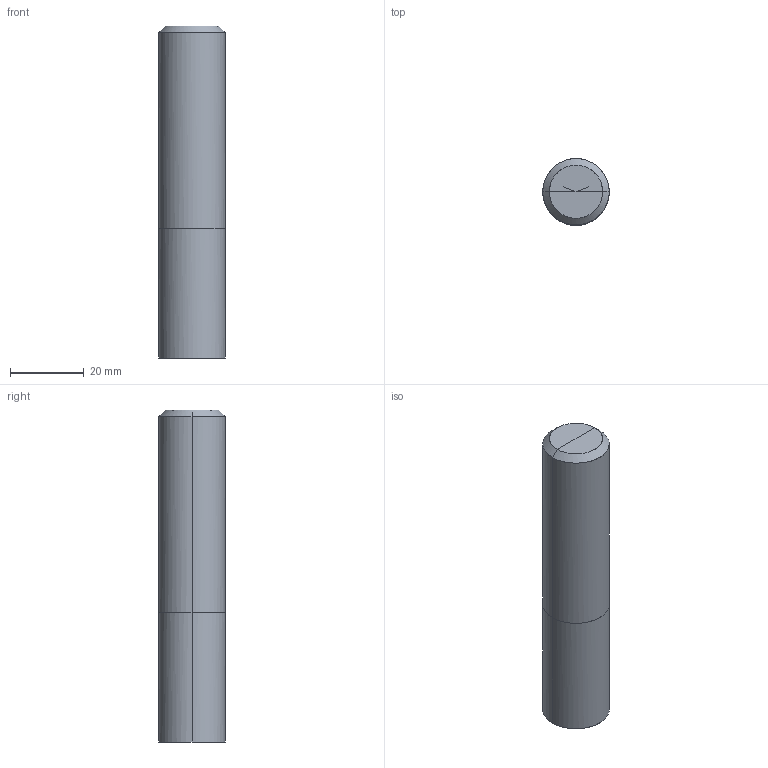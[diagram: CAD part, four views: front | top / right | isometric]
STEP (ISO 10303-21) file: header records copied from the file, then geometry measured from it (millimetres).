
FILE_DESCRIPTION(/* description */ (''),/* implementation_level */ '2;1');
FILE_NAME(/*name*/ '2041-18',/*time_stamp*/'2021-3-24T14:5:2',/*author*/ ('ISBE GmbH'),/*organization*/ ('ISBE GmbH'),/*preprocessor_version*/ 'STEP IO v1.0',/*originating_system*/ '',/*authorisation*/ '');
FILE_SCHEMA (('AUTOMOTIVE_DESIGN'));
Length unit declared in the file: millimetre
Products named in the file (1): Document
Bounding box: 18 x 17.99 x 90 mm (x, y, z)
Surface area: 6051.9 mm2 (no closed solid volume)
Topology: 0 solids, 14 shells, 14 faces, 58 edges, 52 vertices
Faces by surface type: bspline 14
Entity records: 1107 total; most frequent: CARTESIAN_POINT 842, VERTEX_POINT 48, EDGE_CURVE 48, ORIENTED_EDGE 48, DIRECTION 16, EDGE_LOOP 14, FACE_OUTER_BOUND 14, ADVANCED_FACE 14
